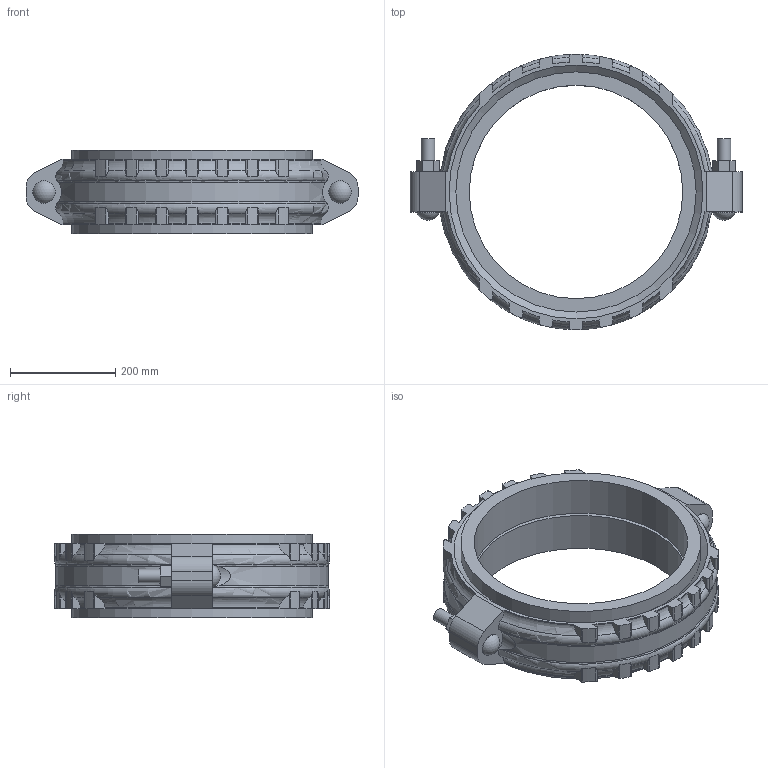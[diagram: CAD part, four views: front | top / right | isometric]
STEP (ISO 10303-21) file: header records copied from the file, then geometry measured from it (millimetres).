
FILE_DESCRIPTION(/* description */ ('VIC COUPLING FLEX STYLE W77 AGS VIC-RING ','CAx-IF Rec.Pracs.---Representation and Presentation of Product Manufacturing Information (PMI)---4.0---2014-10-13'),/* implementation_level */ '2;1');
FILE_NAME(/* name */ 'C:\Users\Vjadhav\AppData\Roaming\Autodesk\ApplicationPlugins\Victaulic.Temp\A52\Victaulic_Vic-Ring_Coupling Flexible_Style W77 (AGR)_18 (450).stp',/* time_stamp */ '2021-12-20T11:04:51+06:00',/* author */ ('Vjadhav'),/* organization */ ('Victaulic'),/* preprocessor_version */ 'ST-DEVELOPER v17.2',/* originating_system */ 'Autodesk Inventor 2019',/* authorisation */ '');
FILE_SCHEMA (('AP242_MANAGED_MODEL_BASED_3D_ENGINEERING_MIM_LF { 1 0 10303 442 1 1 4 }'));
Length unit declared in the file: inch
Products named in the file (3): W77 VR-18.0; W77 VR-18.0_1; W77 VR-18.0_2
Assembly tree (3 placements, depth 2):
  W77 VR-18.0
    W77 VR-18.0_1
    W77 VR-18.0_2  x2
Bounding box: 631.95 x 523.96 x 157.99 mm (x, y, z)
Volume: 11493833.9 mm3; surface area: 1105306.4 mm2
Topology: 3 solids, 5 shells, 285 faces, 825 edges, 558 vertices
Faces by surface type: cylinder 143, plane 98, torus 40, sphere 2, cone 2
Full cylindrical faces by diameter (mm): 25.4 x4, 42.85 x2, 406.4 x2, 438.15 x1, 457.2 x4
Entity records: 11305 total; most frequent: CARTESIAN_POINT 3568, ORIENTED_EDGE 1630, DIRECTION 1467, EDGE_CURVE 815, AXIS2_PLACEMENT_3D 569, VERTEX_POINT 550, LINE 329, VECTOR 329
